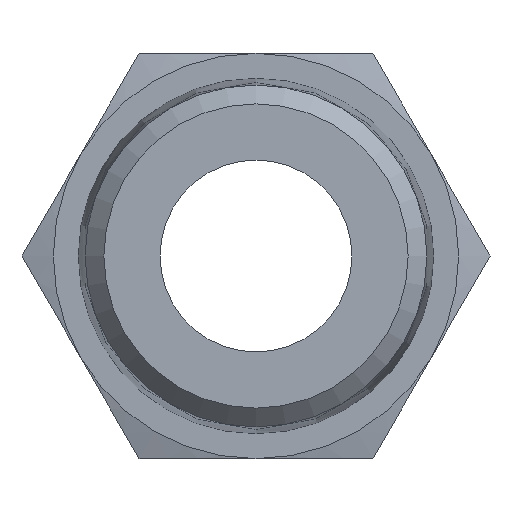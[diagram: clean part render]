
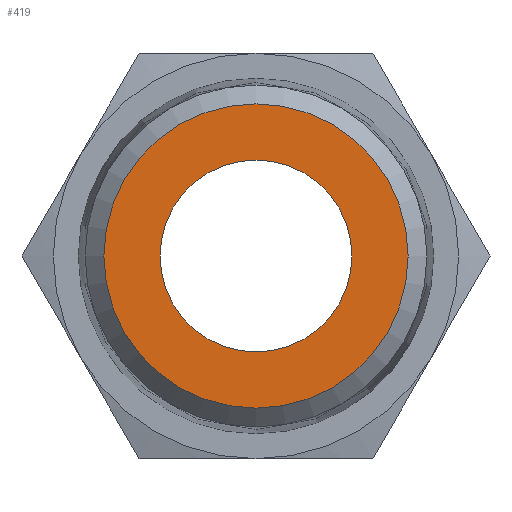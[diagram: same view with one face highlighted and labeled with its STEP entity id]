
A CAD part, left-side view. The second image highlights one B-rep face of the part: STEP entity #419.
In plain terms, the highlighted planar face has unit normal (-1, 0, 0).
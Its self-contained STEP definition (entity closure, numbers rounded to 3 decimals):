
#37=PLANE('',#476);
#59=CIRCLE('',#477,7.131);
#60=CIRCLE('',#478,4.5);
#108=ORIENTED_EDGE('',*,*,#218,.F.);
#109=ORIENTED_EDGE('',*,*,#219,.T.);
#218=EDGE_CURVE('',#261,#261,#59,.T.);
#219=EDGE_CURVE('',#262,#262,#60,.T.);
#261=VERTEX_POINT('',#778);
#262=VERTEX_POINT('',#780);
#310=EDGE_LOOP('',(#108));
#311=EDGE_LOOP('',(#109));
#356=FACE_BOUND('',#310,.T.);
#357=FACE_BOUND('',#311,.T.);
#419=ADVANCED_FACE('',(#356,#357),#37,.F.);
#476=AXIS2_PLACEMENT_3D('',#776,#559,#560);
#477=AXIS2_PLACEMENT_3D('',#777,#561,#562);
#478=AXIS2_PLACEMENT_3D('',#779,#563,#564);
#559=DIRECTION('',(1.,0.,0.));
#560=DIRECTION('',(0.,0.,-1.));
#561=DIRECTION('',(1.,0.,0.));
#562=DIRECTION('',(0.,0.,-1.));
#563=DIRECTION('',(1.,0.,0.));
#564=DIRECTION('',(0.,0.,-1.));
#776=CARTESIAN_POINT('',(0.,0.,0.));
#777=CARTESIAN_POINT('',(0.,0.,0.));
#778=CARTESIAN_POINT('',(0.,0.,-7.131));
#779=CARTESIAN_POINT('',(0.,0.,0.));
#780=CARTESIAN_POINT('',(0.,0.,-4.5));
